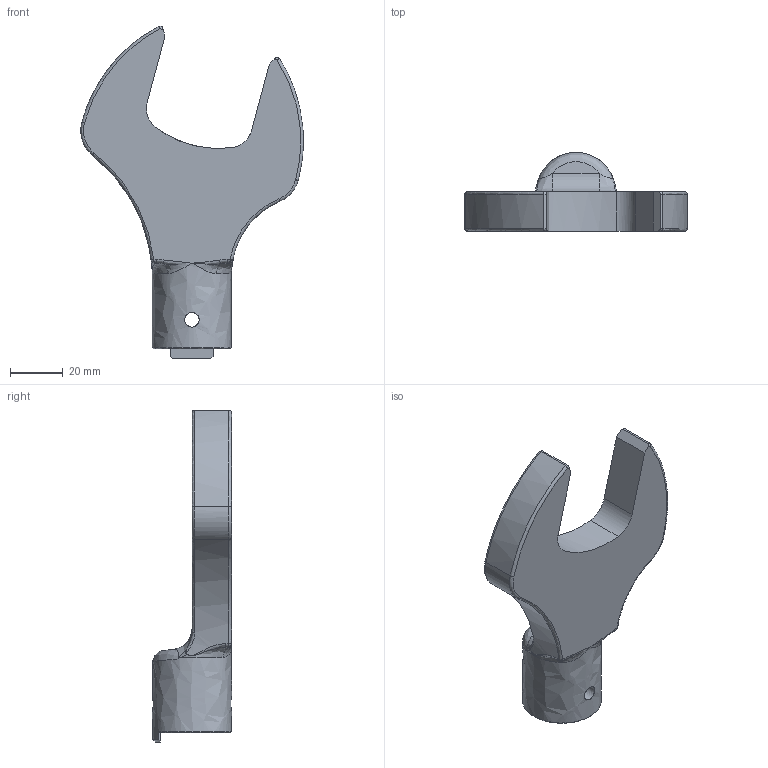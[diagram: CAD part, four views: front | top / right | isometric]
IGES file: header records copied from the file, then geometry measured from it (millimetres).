
Global section: file name: SH22DX41; native system: Autodesk Inventor 2016; preprocessor: unknown; author: Q600; date: 20151029.174540; units: millimetre
Bounding box: 84.43 x 30 x 125.98 mm (x, y, z)
Volume: 69722.8 mm3; surface area: 17938.6 mm2
Topology: 1 solids, 1 shells, 81 faces, 214 edges, 124 vertices
Faces by surface type: bspline 81
